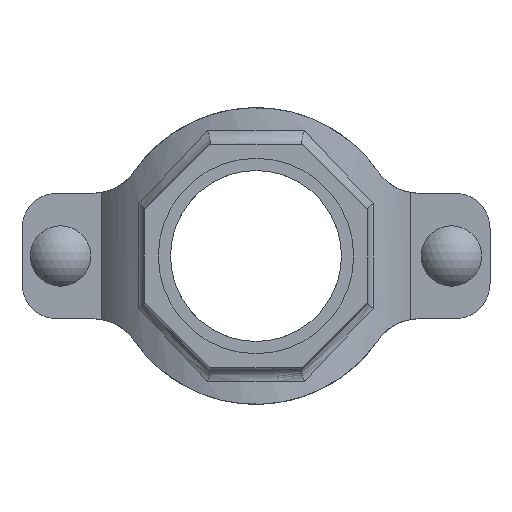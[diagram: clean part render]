
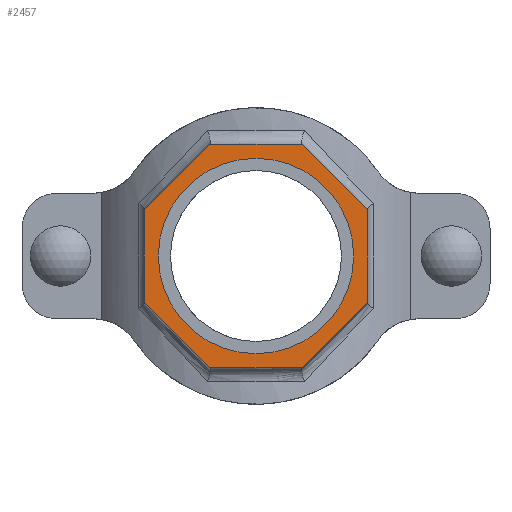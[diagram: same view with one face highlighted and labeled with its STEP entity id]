
A CAD part, front view. The second image highlights one B-rep face of the part: STEP entity #2457.
In plain terms, the highlighted planar face has unit normal (0, -1, 0) as drawn and (0, 1, 0) by its records, which use the part's own axes.
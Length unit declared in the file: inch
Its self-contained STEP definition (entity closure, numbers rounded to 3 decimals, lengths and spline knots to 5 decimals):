
#178=FACE_BOUND('',#441,.T.);
#293=FACE_OUTER_BOUND('',#440,.T.);
#440=EDGE_LOOP('',(#2058,#2059,#2060,#2061,#2062,#2063,#2064,#2065));
#441=EDGE_LOOP('',(#2066));
#576=LINE('',#4655,#758);
#579=LINE('',#4660,#761);
#581=LINE('',#4664,#763);
#583=LINE('',#4668,#765);
#617=LINE('',#5059,#799);
#619=LINE('',#5063,#801);
#621=LINE('',#5067,#803);
#623=LINE('',#5070,#805);
#758=VECTOR('',#3180,0.3937);
#761=VECTOR('',#3185,0.3937);
#763=VECTOR('',#3189,0.3937);
#765=VECTOR('',#3193,0.3937);
#799=VECTOR('',#3307,0.3937);
#801=VECTOR('',#3311,0.3937);
#803=VECTOR('',#3315,0.3937);
#805=VECTOR('',#3319,0.3937);
#887=CIRCLE('',#2710,1.75);
#1065=VERTEX_POINT('',#4652);
#1066=VERTEX_POINT('',#4654);
#1067=VERTEX_POINT('',#4658);
#1068=VERTEX_POINT('',#4662);
#1069=VERTEX_POINT('',#4666);
#1096=VERTEX_POINT('',#4884);
#1120=VERTEX_POINT('',#5058);
#1121=VERTEX_POINT('',#5062);
#1122=VERTEX_POINT('',#5066);
#1366=EDGE_CURVE('',#1066,#1065,#576,.T.);
#1369=EDGE_CURVE('',#1065,#1067,#579,.T.);
#1371=EDGE_CURVE('',#1067,#1068,#581,.T.);
#1373=EDGE_CURVE('',#1068,#1069,#583,.T.);
#1409=EDGE_CURVE('',#1096,#1096,#887,.T.);
#1441=EDGE_CURVE('',#1120,#1066,#617,.T.);
#1443=EDGE_CURVE('',#1121,#1120,#619,.T.);
#1445=EDGE_CURVE('',#1122,#1121,#621,.T.);
#1447=EDGE_CURVE('',#1069,#1122,#623,.T.);
#2058=ORIENTED_EDGE('',*,*,#1447,.T.);
#2059=ORIENTED_EDGE('',*,*,#1445,.T.);
#2060=ORIENTED_EDGE('',*,*,#1443,.T.);
#2061=ORIENTED_EDGE('',*,*,#1441,.T.);
#2062=ORIENTED_EDGE('',*,*,#1366,.T.);
#2063=ORIENTED_EDGE('',*,*,#1369,.T.);
#2064=ORIENTED_EDGE('',*,*,#1371,.T.);
#2065=ORIENTED_EDGE('',*,*,#1373,.T.);
#2066=ORIENTED_EDGE('',*,*,#1409,.T.);
#2206=PLANE('',#2733);
#2457=ADVANCED_FACE('',(#293,#178),#2206,.T.);
#2710=AXIS2_PLACEMENT_3D('',#4885,#3253,#3254);
#2733=AXIS2_PLACEMENT_3D('',#5071,#3320,#3321);
#3180=DIRECTION('',(0.,0.,1.));
#3185=DIRECTION('',(0.707,0.,0.707));
#3189=DIRECTION('',(1.,0.,0.));
#3193=DIRECTION('',(0.707,0.,-0.707));
#3253=DIRECTION('center_axis',(0.,-1.,0.));
#3254=DIRECTION('ref_axis',(-1.,0.,0.));
#3307=DIRECTION('',(-0.707,0.,0.707));
#3311=DIRECTION('',(-1.,0.,0.));
#3315=DIRECTION('',(-0.707,0.,-0.707));
#3319=DIRECTION('',(0.,0.,-1.));
#3320=DIRECTION('center_axis',(0.,1.,0.));
#3321=DIRECTION('ref_axis',(0.,0.,1.));
#4652=CARTESIAN_POINT('',(-2.,5.,0.82843));
#4654=CARTESIAN_POINT('',(-2.,5.,-0.82843));
#4655=CARTESIAN_POINT('',(-2.,5.,0.82843));
#4658=CARTESIAN_POINT('',(-0.82843,5.,2.));
#4660=CARTESIAN_POINT('',(-0.82843,5.,2.));
#4662=CARTESIAN_POINT('',(0.82843,5.,2.));
#4664=CARTESIAN_POINT('',(0.82843,5.,2.));
#4666=CARTESIAN_POINT('',(2.,5.,0.82843));
#4668=CARTESIAN_POINT('',(2.,5.,0.82843));
#4884=CARTESIAN_POINT('',(1.75,5.,0.));
#4885=CARTESIAN_POINT('Origin',(0.,5.,0.));
#5058=CARTESIAN_POINT('',(-0.82843,5.,-2.));
#5059=CARTESIAN_POINT('',(-2.,5.,-0.82843));
#5062=CARTESIAN_POINT('',(0.82843,5.,-2.));
#5063=CARTESIAN_POINT('',(-0.82843,5.,-2.));
#5066=CARTESIAN_POINT('',(2.,5.,-0.82843));
#5067=CARTESIAN_POINT('',(0.82843,5.,-2.));
#5070=CARTESIAN_POINT('',(2.,5.,-0.82843));
#5071=CARTESIAN_POINT('Origin',(0.,5.,0.));
